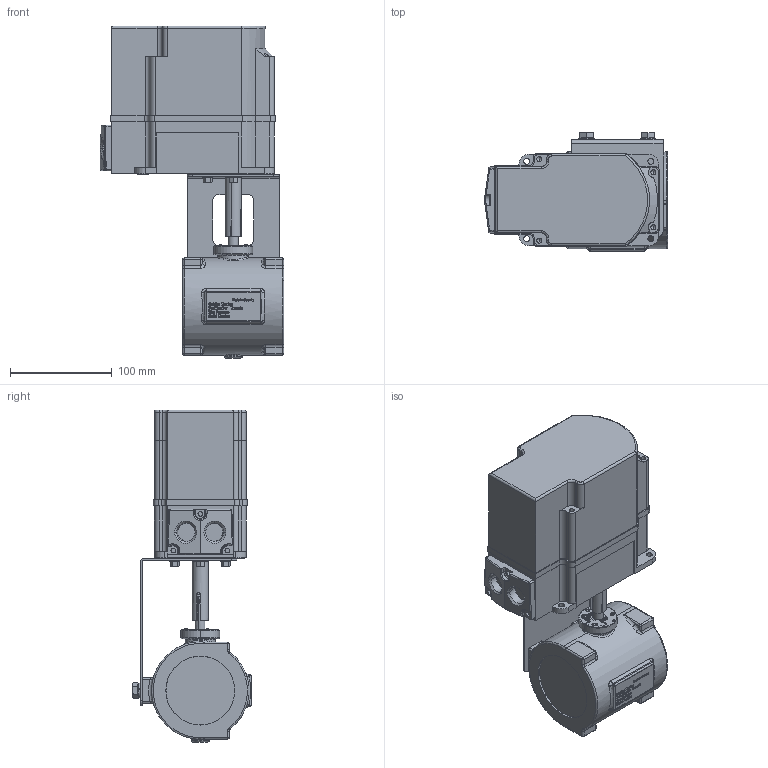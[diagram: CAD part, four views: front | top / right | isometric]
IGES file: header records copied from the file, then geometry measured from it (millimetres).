
Global section: file name: No Iges File Name specified; native system: AutoDesk Inventor R12.0; preprocessor: AutoDesk Inventor Iges Exporter R12.0; date: 20110328.094125; units: millimetre
Bounding box: 179.99 x 116.36 x 326 mm (x, y, z)
Volume: 2608969.8 mm3; surface area: 209291.2 mm2
Topology: 1 solids, 15 shells, 2840 faces, 7586 edges, 4945 vertices
Faces by surface type: plane 1468, bspline 1005, cylinder 182, revolution 97, cone 47, torus 31, sphere 10
Full cylindrical faces by diameter (mm): 9.2 x3, 14.8 x2
